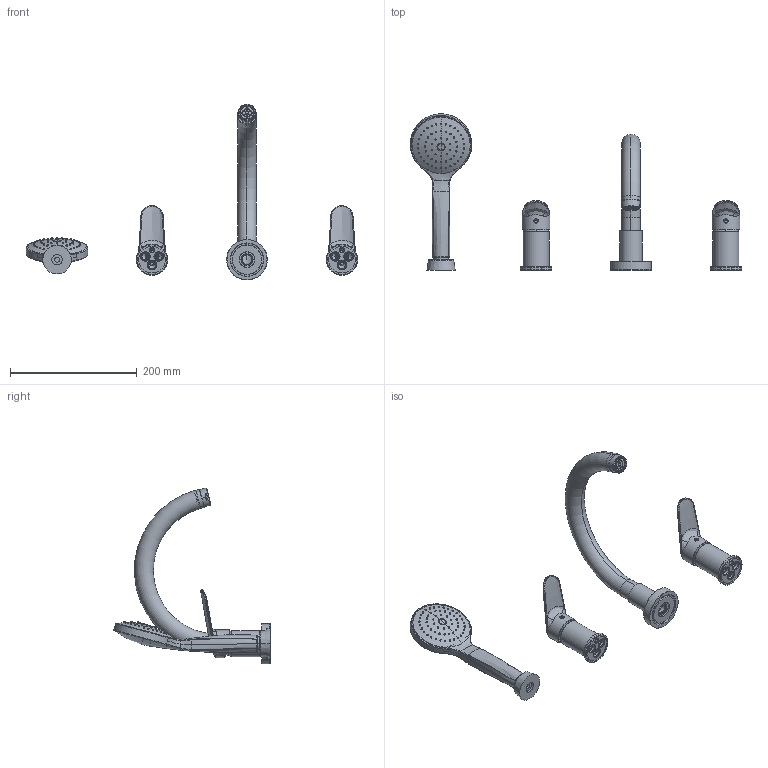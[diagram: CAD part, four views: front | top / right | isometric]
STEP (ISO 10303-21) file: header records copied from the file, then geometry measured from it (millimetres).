
FILE_DESCRIPTION((''),'2;1');
FILE_NAME('F3014_FILE_3D','2018-11-26T',('ivanv'),(''),'CREO PARAMETRIC BY PTC INC, 2016260','CREO PARAMETRIC BY PTC INC, 2016260','');
FILE_SCHEMA(('CONFIG_CONTROL_DESIGN'));
Length unit declared in the file: millimetre
Products named in the file (1): F3014_FILE_3D
Bounding box: 523.25 x 246.88 x 277.79 mm (x, y, z)
Volume: 536977.7 mm3; surface area: 202861.1 mm2
Topology: 6 solids, 6 shells, 2448 faces, 6093 edges, 3832 vertices
Faces by surface type: plane 1174, bspline 453, cylinder 364, cone 276, torus 96, sphere 85
Entity records: 109373 total; most frequent: CARTESIAN_POINT 56309, ORIENTED_EDGE 12148, DIRECTION 9114, EDGE_CURVE 6074, VERTEX_POINT 3832, AXIS2_PLACEMENT_3D 3262, EDGE_LOOP 2682, VECTOR 2590
